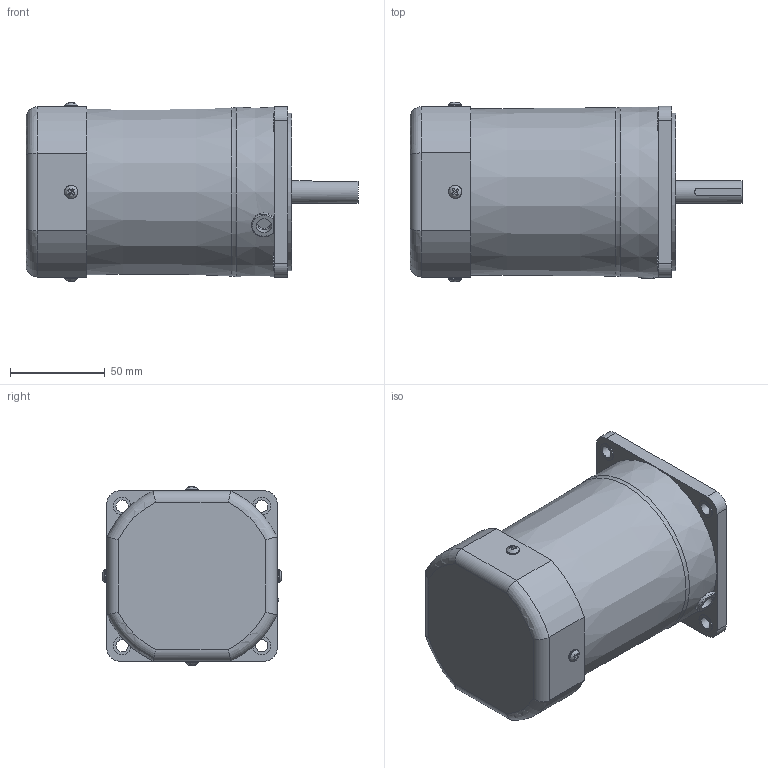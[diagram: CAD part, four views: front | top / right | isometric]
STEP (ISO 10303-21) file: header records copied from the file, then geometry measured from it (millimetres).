
FILE_DESCRIPTION((''),'2;1');
FILE_NAME('D:\STP파일\150W MOTOR\S9I150K.stp','2013-05-20T18:52:31',('leebh'),(''),'Autodesk Inventor 2011','Autodesk Inventor 2011','');
FILE_SCHEMA(('AUTOMOTIVE_DESIGN { 1 0 10303 214 1 1 1 1 }'));
Length unit declared in the file: millimetre
Products named in the file (1): S9I90G-T1
Bounding box: 174.8 x 94.6 x 94.14 mm (x, y, z)
Volume: 884203.7 mm3; surface area: 62086 mm2
Topology: 1 solids, 3 shells, 167 faces, 421 edges, 275 vertices
Faces by surface type: plane 103, cylinder 43, torus 14, bspline 4, cone 3
Full cylindrical faces by diameter (mm): 4 x1, 6.5 x4, 7 x4, 8 x1, 9.5 x4, 10 x1, 12 x1, 40 x1, 83 x1
Entity records: 5260 total; most frequent: CARTESIAN_POINT 1404, ORIENTED_EDGE 744, DIRECTION 735, EDGE_CURVE 372, AXIS2_PLACEMENT_3D 262, VERTEX_POINT 261, EDGE_LOOP 229, VECTOR 211
